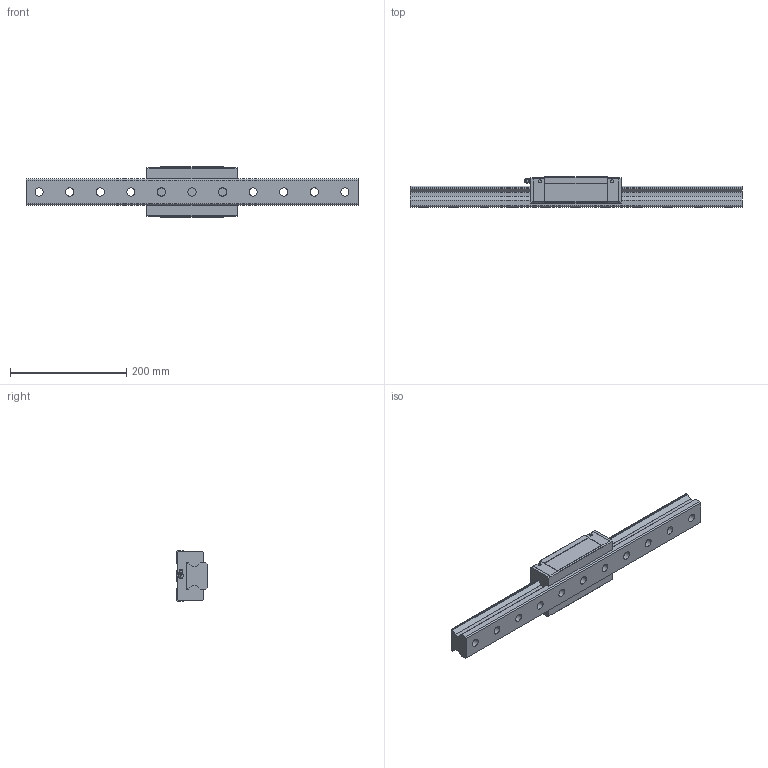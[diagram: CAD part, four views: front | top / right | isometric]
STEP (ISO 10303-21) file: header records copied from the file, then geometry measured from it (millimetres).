
FILE_DESCRIPTION(/* description */ ('STEP AP203'),/* implementation_level */ '2;1');
FILE_NAME(/* name */ 'SRN45R1SS-570L_G22-5_0_B-M6F_207-5_0_0_0_1',/* time_stamp */ '2024-05-23T10:56:37+02:00',/* author */ ('License CC BY-ND 4.0'),/* organization */ ('CADENAS'),/* preprocessor_version */ 'ST-DEVELOPER v19.3',/* originating_system */ 'PARTsolutions',/* authorisation */ ' ');
FILE_SCHEMA (('CONFIG_CONTROL_DESIGN'));
Length unit declared in the file: millimetre
Products named in the file (4): SRN45R1SS-570L_G22-5_0_B-M6F_207-5_0_0_0_1; SRG45R57022.5 Track; SRN45RSSB-M6F1 Slide25-55; B-M6F-SRN_grease_nipple_joint
Assembly tree (3 placements, depth 2):
  SRN45R1SS-570L_G22-5_0_B-M6F_207-5_0_0_0_1
    SRG45R57022.5 Track
    SRN45RSSB-M6F1 Slide25-55
    B-M6F-SRN_grease_nipple_joint
Bounding box: 570 x 52 x 86 mm (x, y, z)
Volume: 1133781.4 mm3; surface area: 175855.6 mm2
Topology: 3 solids, 3 shells, 221 faces, 570 edges, 371 vertices
Faces by surface type: plane 129, cylinder 62, cone 25, sphere 3, torus 2
Full cylindrical faces by diameter (mm): 4.917 x2, 5.2 x4, 6 x1, 8 x1, 8.376 x6, 14 x11, 20 x11
Entity records: 6503 total; most frequent: CARTESIAN_POINT 1186, DIRECTION 1074, ORIENTED_EDGE 992, EDGE_CURVE 496, AXIS2_PLACEMENT_3D 377, VERTEX_POINT 365, FACE_BOUND 327, LINE 320
